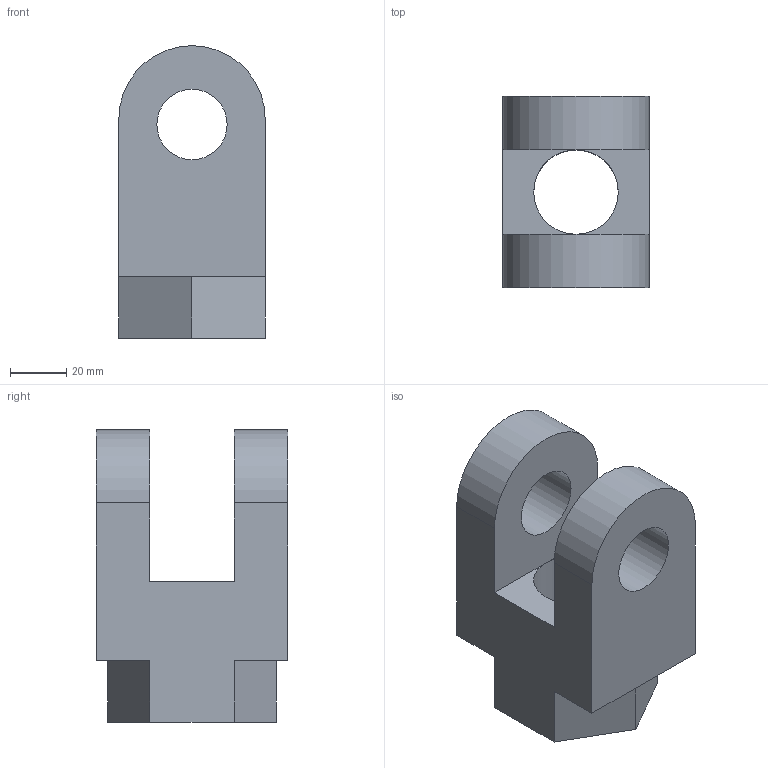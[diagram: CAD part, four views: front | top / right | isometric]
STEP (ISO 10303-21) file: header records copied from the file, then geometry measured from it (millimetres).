
FILE_DESCRIPTION(/* description */ ('Unknown'),/* implementation_level */ '2;1');
FILE_NAME(/* name */ 'WA125_WA150_Y',/* time_stamp */ '2026-07-17T17:02:25+08:00',/* author */ ('Unknown'),/* organization */ ('Unknown'),/* preprocessor_version */ 'ST-DEVELOPER v16.7',/* originating_system */ 'DEX',/* authorisation */ $);
FILE_SCHEMA (('CONFIG_CONTROL_DESIGN'));
Length unit declared in the file: millimetre
Products named in the file (1): WA125_WA150_Y
Bounding box: 52 x 68 x 104 mm (x, y, z)
Volume: 192208.6 mm3; surface area: 35401.9 mm2
Topology: 1 solids, 1 shells, 20 faces, 55 edges, 36 vertices
Faces by surface type: plane 15, cylinder 5
Full cylindrical faces by diameter (mm): 25 x2, 30 x1
Entity records: 786 total; most frequent: CARTESIAN_POINT 107, DIRECTION 104, ORIENTED_EDGE 102, EDGE_CURVE 51, LINE 40, VECTOR 40, VERTEX_POINT 35, AXIS2_PLACEMENT_3D 32
